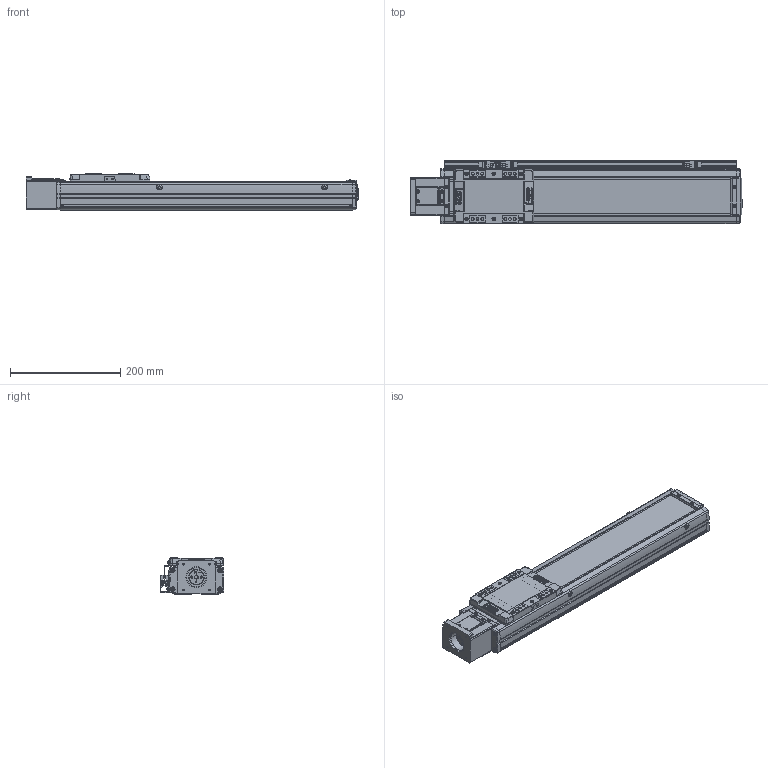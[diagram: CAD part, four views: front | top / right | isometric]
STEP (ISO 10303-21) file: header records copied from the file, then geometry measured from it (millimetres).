
FILE_DESCRIPTION(('STEP AP214'),'1');
FILE_NAME('Z:/Web/3D/SAN100/SAN100 양산용 (STEP)/SAN100ㅁㅁ-350S+3SL.stp','2013-05-08T06:26:46',(' '),(' '),'Spatial InterOp 3D',' ',' ');
FILE_SCHEMA(('automotive_design'));
Length unit declared in the file: millimetre
Products named in the file (58): SUS COVER; SFX-SAN100; RRCV-SAN100; 스크루 : Round - M4.0 x 10.0; M3.0 x 6.0; 스크루 : Round - M3.0 x 6.0; FRBL-SAN100; SLBL-SAN100; SLCV-SAN100; 스크루 : Countersunk - M3.0 x 6.0; BASE; 스크루 : Round - M5.0 x 6.0; MTHZ-SAN100-S56A; SDA26C-8-6.35; SSFX-SAN65; CPLCV-SAN65; FRCV-SAN100; SGD-SAN100; SRL-16x17-380L; EE-SX674; SBK-SX674-352
Bounding box: 602.5 x 116 x 66 mm (x, y, z)
Volume: 1797916.7 mm3; surface area: 514678.2 mm2
Topology: 58 solids, 59 shells, 2885 faces, 7578 edges, 4925 vertices
Faces by surface type: plane 1492, cylinder 1019, cone 237, sphere 72, torus 45, bspline 20
Entity records: 115276 total; most frequent: CARTESIAN_POINT 17840, DIRECTION 16002, ORIENTED_EDGE 14992, EDGE_CURVE 7496, AXIS2_PLACEMENT_3D 5762, VERTEX_POINT 4925, LINE 4478, VECTOR 4478
